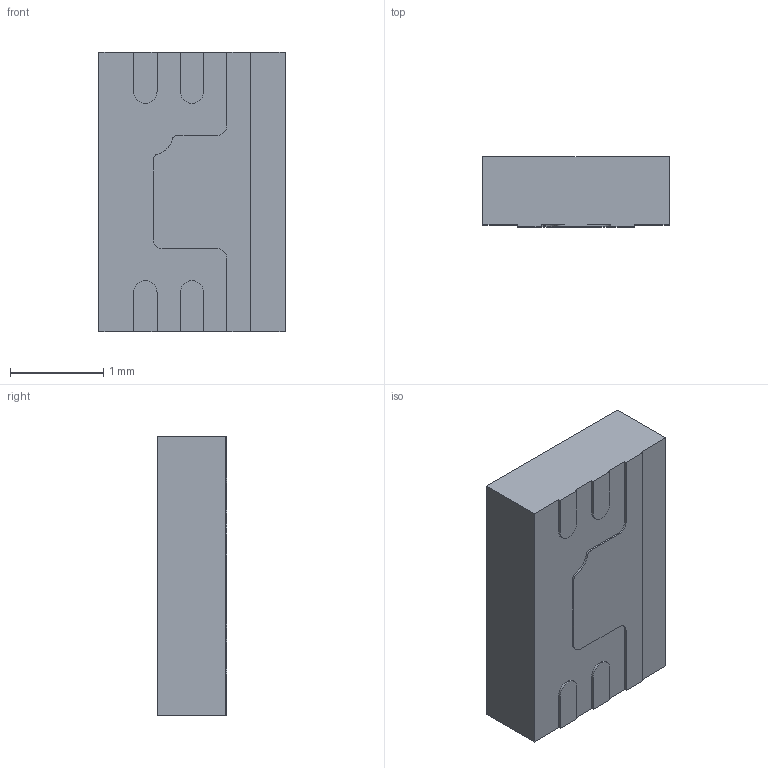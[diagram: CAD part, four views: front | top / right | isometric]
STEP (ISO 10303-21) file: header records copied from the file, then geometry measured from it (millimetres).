
FILE_DESCRIPTION (( 'STEP AP214' ), '1' );
FILE_NAME ('EH Shell model.STEP', '2022-04-11T15:41:56', ( '' ), ( '' ), 'SwSTEP 2.0', 'SolidWorks 2019', '' );
FILE_SCHEMA (( 'AUTOMOTIVE_DESIGN' ));
Length unit declared in the file: millimetre
Products named in the file (1): EH Shell model
Bounding box: 2 x 0.75 x 3 mm (x, y, z)
Volume: 4.4 mm3; surface area: 19.6 mm2
Topology: 1 solids, 1 shells, 38 faces, 108 edges, 72 vertices
Faces by surface type: plane 26, cylinder 12
Entity records: 1347 total; most frequent: CARTESIAN_POINT 219, ORIENTED_EDGE 216, DIRECTION 210, EDGE_CURVE 108, LINE 84, VECTOR 84, VERTEX_POINT 72, AXIS2_PLACEMENT_3D 63
